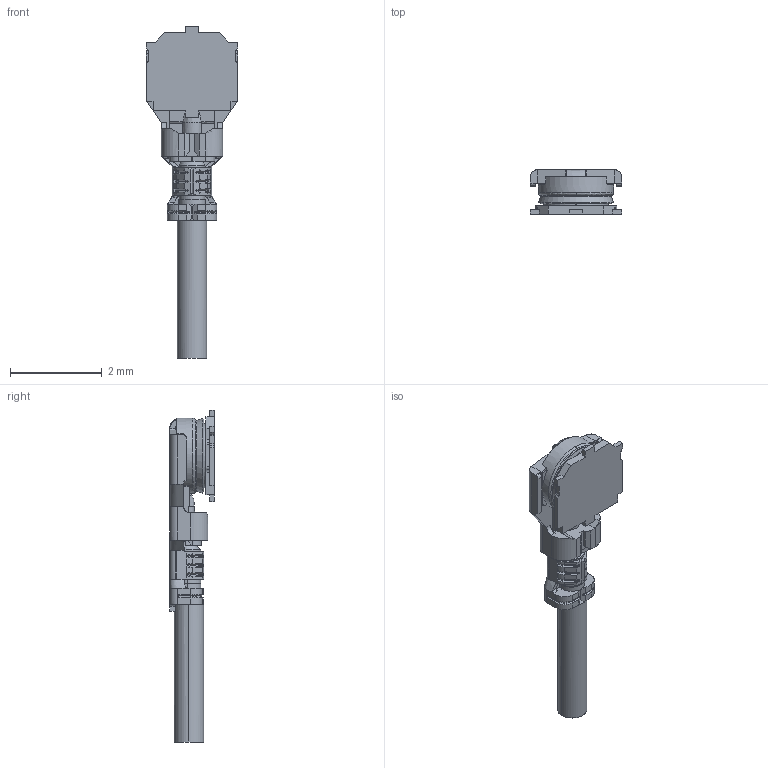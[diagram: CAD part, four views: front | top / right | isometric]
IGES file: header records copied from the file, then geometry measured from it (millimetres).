
Start section: SolidWorks IGES file using analytic representation for surfaces
Global section: file name: C:\3dwork\imaji\00.Web model check\00. New 3D\MHF 5\20566C + 20567C(0.64) MATING R6R11 ALL.IGS; native system: SolidWorks 2017; preprocessor: SolidWorks 2017; author: ipxcad-013; date: 180529.202447; units: millimetre
Bounding box: 2 x 0.97 x 7.24 mm (x, y, z)
Surface area: 32.1 mm2 (no closed solid volume)
Topology: 0 solids, 0 shells, 401 faces, 2532 edges, 2529 vertices
Faces by surface type: bspline 276, revolution 125
